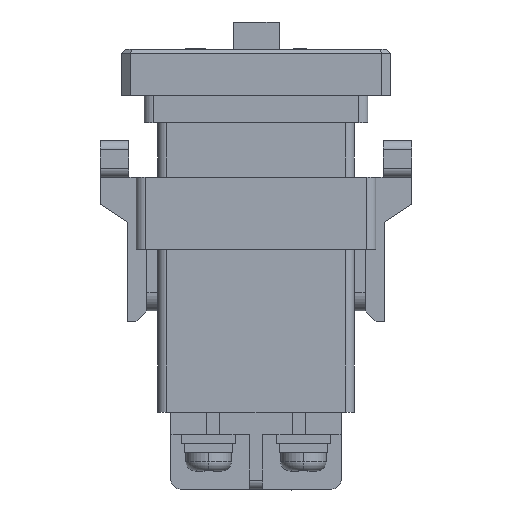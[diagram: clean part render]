
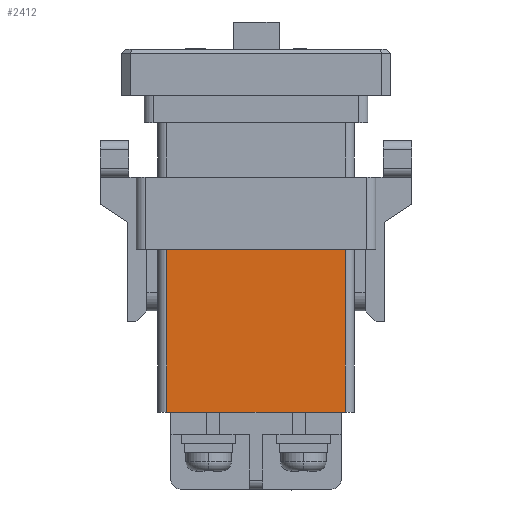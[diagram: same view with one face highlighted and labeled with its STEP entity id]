
A CAD part, left-side view. The second image highlights one B-rep face of the part: STEP entity #2412.
In plain terms, the highlighted planar face has unit normal (-1, 0, 0).
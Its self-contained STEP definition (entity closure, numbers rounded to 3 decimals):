
#40 = VERTEX_POINT ( 'NONE', #4888 ) ;
#41 = VERTEX_POINT ( 'NONE', #4889 ) ;
#997 = EDGE_LOOP ( 'NONE', ( #1782, #1783, #1781, #1784 ) ) ;
#1781 = ORIENTED_EDGE ( 'NONE', *, *, #20994, .F. ) ;
#1782 = ORIENTED_EDGE ( 'NONE', *, *, #21640, .T. ) ;
#1783 = ORIENTED_EDGE ( 'NONE', *, *, #2797, .T. ) ;
#1784 = ORIENTED_EDGE ( 'NONE', *, *, #2798, .T. ) ;
#2412 = ADVANCED_FACE ( 'NONE', ( #23186 ), #5756, .F. ) ;
#2797 = EDGE_CURVE ( 'NONE', #40, #24603, #6974, .T. ) ;
#2798 = EDGE_CURVE ( 'NONE', #24604, #41, #6977, .T. ) ;
#4888 = CARTESIAN_POINT ( 'NONE',  ( -22.25, 9.875, -22.15 ) ) ;
#4889 = CARTESIAN_POINT ( 'NONE',  ( -22.25, -9.875, -22.15 ) ) ;
#5756 = PLANE ( 'NONE',  #23208 ) ;
#5757 = CARTESIAN_POINT ( 'NONE',  ( -22.25, -10.875, -40.15 ) ) ;
#5758 = DIRECTION ( 'NONE',  ( 1., 0., 0. ) ) ;
#5759 = DIRECTION ( 'NONE',  ( 0., 0., -1. ) ) ;
#6974 = LINE ( 'NONE', #6975, #22551 ) ;
#6975 = CARTESIAN_POINT ( 'NONE',  ( -22.25, 9.875, -40.15 ) ) ;
#6976 = DIRECTION ( 'NONE',  ( 0., 0., -1. ) ) ;
#6977 = LINE ( 'NONE', #6978, #22552 ) ;
#6978 = CARTESIAN_POINT ( 'NONE',  ( -22.25, -9.875, -40.15 ) ) ;
#6979 = DIRECTION ( 'NONE',  ( 0., 0., 1. ) ) ;
#10985 = VECTOR ( 'NONE', #11571, 1000. ) ;
#11569 = LINE ( 'NONE', #11570, #10985 ) ;
#11570 = CARTESIAN_POINT ( 'NONE',  ( -22.25, -10.875, -40.15 ) ) ;
#11571 = DIRECTION ( 'NONE',  ( 0., 1., 0. ) ) ;
#14352 = VECTOR ( 'NONE', #15041, 1000. ) ;
#15039 = LINE ( 'NONE', #15040, #14352 ) ;
#15040 = CARTESIAN_POINT ( 'NONE',  ( -22.25, -10.875, -22.15 ) ) ;
#15041 = DIRECTION ( 'NONE',  ( 0., 1., 0. ) ) ;
#20658 = CARTESIAN_POINT ( 'NONE',  ( -22.25, 9.875, -40.15 ) ) ;
#20659 = CARTESIAN_POINT ( 'NONE',  ( -22.25, -9.875, -40.15 ) ) ;
#20994 = EDGE_CURVE ( 'NONE', #24604, #24603, #11569, .T. ) ;
#21640 = EDGE_CURVE ( 'NONE', #41, #40, #15039, .T. ) ;
#22551 = VECTOR ( 'NONE', #6976, 1000. ) ;
#22552 = VECTOR ( 'NONE', #6979, 1000. ) ;
#23186 = FACE_OUTER_BOUND ( 'NONE', #997, .T. ) ;
#23208 = AXIS2_PLACEMENT_3D ( 'NONE', #5757, #5758, #5759 ) ;
#24603 = VERTEX_POINT ( 'NONE', #20658 ) ;
#24604 = VERTEX_POINT ( 'NONE', #20659 ) ;
